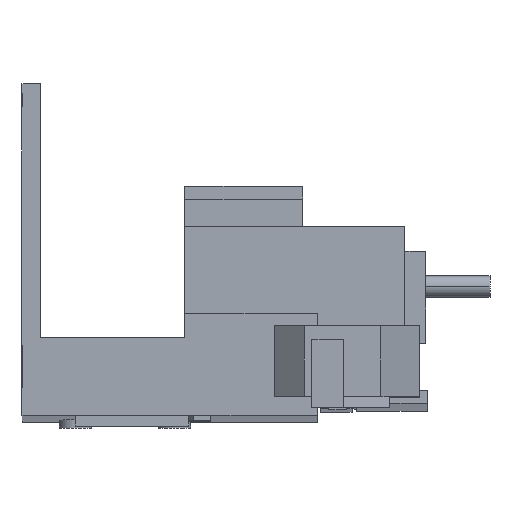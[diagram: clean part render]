
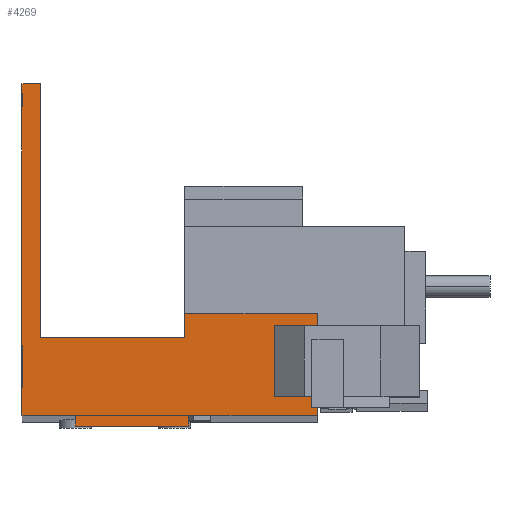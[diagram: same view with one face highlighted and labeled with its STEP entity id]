
A CAD part, front view. The second image highlights one B-rep face of the part: STEP entity #4269.
In plain terms, the highlighted planar face has unit normal (0, -1, 0.002).
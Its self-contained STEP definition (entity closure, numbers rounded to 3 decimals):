
#191 = CARTESIAN_POINT ( 'NONE',  ( 23.5, -33.076, -36.181 ) ) ;
#226 = CARTESIAN_POINT ( 'NONE',  ( 22.92, -33.053, -25.181 ) ) ;
#234 = CARTESIAN_POINT ( 'NONE',  ( 41.6, -33.076, -36.181 ) ) ;
#244 = CARTESIAN_POINT ( 'NONE',  ( 41.6, -33.046, -21.831 ) ) ;
#250 = CARTESIAN_POINT ( 'NONE',  ( 0., -33.076, -36.181 ) ) ;
#259 = CARTESIAN_POINT ( 'NONE',  ( 22.92, -33.046, -21.831 ) ) ;
#301 = CARTESIAN_POINT ( 'NONE',  ( 23.5, -33.079, -37.681 ) ) ;
#319 = CARTESIAN_POINT ( 'NONE',  ( 7.5, -33.076, -36.181 ) ) ;
#735 = CARTESIAN_POINT ( 'NONE',  ( 0., -33.076, -36.181 ) ) ;
#742 = PLANE ( 'NONE',  #6274 ) ;
#744 = DIRECTION ( 'NONE',  ( 0., 1., -0.002 ) ) ;
#745 = DIRECTION ( 'NONE',  ( 1., 0., 0. ) ) ;
#1058 = CARTESIAN_POINT ( 'NONE',  ( 0., -33.076, -36.181 ) ) ;
#1072 = DIRECTION ( 'NONE',  ( -1., 0., 0. ) ) ;
#1493 = DIRECTION ( 'NONE',  ( 0., -0.002, -1. ) ) ;
#1498 = CARTESIAN_POINT ( 'NONE',  ( 41.6, -33.076, -36.181 ) ) ;
#1646 = CARTESIAN_POINT ( 'NONE',  ( 0., -33.076, -36.181 ) ) ;
#1647 = DIRECTION ( 'NONE',  ( -1., 0., 0. ) ) ;
#1726 = CARTESIAN_POINT ( 'NONE',  ( 2.55, -32.978, 10.519 ) ) ;
#1727 = DIRECTION ( 'NONE',  ( 1., 0., 0. ) ) ;
#1882 = CARTESIAN_POINT ( 'NONE',  ( 0., -32.978, 10.519 ) ) ;
#1883 = DIRECTION ( 'NONE',  ( 0., 0.002, 1. ) ) ;
#1888 = CARTESIAN_POINT ( 'NONE',  ( 41.6, -33.046, -21.831 ) ) ;
#1889 = DIRECTION ( 'NONE',  ( 1., 0., 0. ) ) ;
#1900 = CARTESIAN_POINT ( 'NONE',  ( 22.92, -33.046, -21.831 ) ) ;
#1901 = DIRECTION ( 'NONE',  ( 0., 0.002, 1. ) ) ;
#2059 = CARTESIAN_POINT ( 'NONE',  ( 7.5, -33.079, -37.681 ) ) ;
#2060 = CARTESIAN_POINT ( 'NONE',  ( 7.5, -33.079, -37.681 ) ) ;
#2070 = CARTESIAN_POINT ( 'NONE',  ( 2.55, -33.072, -34.53 ) ) ;
#2071 = DIRECTION ( 'NONE',  ( 0., -0.002, -1. ) ) ;
#2072 = CARTESIAN_POINT ( 'NONE',  ( 2., -33.053, -25.181 ) ) ;
#2073 = CARTESIAN_POINT ( 'NONE',  ( 23.5, -33.079, -37.681 ) ) ;
#2074 = DIRECTION ( 'NONE',  ( 1., 0., 0. ) ) ;
#2075 = DIRECTION ( 'NONE',  ( 0., 0.002, 1. ) ) ;
#2077 = DIRECTION ( 'NONE',  ( 1., 0., 0. ) ) ;
#2079 = DIRECTION ( 'NONE',  ( 0., 0.002, 1. ) ) ;
#2404 = VERTEX_POINT ( 'NONE', #6631 ) ;
#2468 = VERTEX_POINT ( 'NONE', #6688 ) ;
#2520 = VERTEX_POINT ( 'NONE', #6592 ) ;
#2524 = VERTEX_POINT ( 'NONE', #6667 ) ;
#2614 = VERTEX_POINT ( 'NONE', #191 ) ;
#2689 = VERTEX_POINT ( 'NONE', #226 ) ;
#2714 = VERTEX_POINT ( 'NONE', #234 ) ;
#2742 = VERTEX_POINT ( 'NONE', #244 ) ;
#2778 = VERTEX_POINT ( 'NONE', #250 ) ;
#2793 = VERTEX_POINT ( 'NONE', #259 ) ;
#2975 = VERTEX_POINT ( 'NONE', #301 ) ;
#3035 = VERTEX_POINT ( 'NONE', #319 ) ;
#3357 = EDGE_LOOP ( 'NONE', ( #3660, #3661, #3662, #3663, #3664, #3665, #3666, #3667, #3668, #3669, #3670, #3671 ) ) ;
#3660 = ORIENTED_EDGE ( 'NONE', *, *, #6010, .F. ) ;
#3661 = ORIENTED_EDGE ( 'NONE', *, *, #6009, .F. ) ;
#3662 = ORIENTED_EDGE ( 'NONE', *, *, #5886, .F. ) ;
#3663 = ORIENTED_EDGE ( 'NONE', *, *, #5939, .F. ) ;
#3664 = ORIENTED_EDGE ( 'NONE', *, *, #5609, .F. ) ;
#3665 = ORIENTED_EDGE ( 'NONE', *, *, #6011, .F. ) ;
#3666 = ORIENTED_EDGE ( 'NONE', *, *, #6012, .T. ) ;
#3667 = ORIENTED_EDGE ( 'NONE', *, *, #6013, .T. ) ;
#3668 = ORIENTED_EDGE ( 'NONE', *, *, #5846, .F. ) ;
#3669 = ORIENTED_EDGE ( 'NONE', *, *, #5786, .F. ) ;
#3670 = ORIENTED_EDGE ( 'NONE', *, *, #5942, .F. ) ;
#3671 = ORIENTED_EDGE ( 'NONE', *, *, #5948, .F. ) ;
#4269 = ADVANCED_FACE ( 'NONE', ( #5171 ), #742, .F. ) ;
#4522 = LINE ( 'NONE', #1646, #4788 ) ;
#4568 = VECTOR ( 'NONE', #1883, 1000. ) ;
#4700 = LINE ( 'NONE', #2070, #5038 ) ;
#4788 = VECTOR ( 'NONE', #1647, 1000. ) ;
#4868 = LINE ( 'NONE', #1888, #4874 ) ;
#4874 = VECTOR ( 'NONE', #1889, 1000. ) ;
#4892 = LINE ( 'NONE', #1900, #4898 ) ;
#4898 = VECTOR ( 'NONE', #1901, 1000. ) ;
#4918 = LINE ( 'NONE', #2060, #5046 ) ;
#4957 = LINE ( 'NONE', #1058, #4979 ) ;
#4979 = VECTOR ( 'NONE', #1072, 1000. ) ;
#4982 = LINE ( 'NONE', #1882, #4568 ) ;
#5036 = LINE ( 'NONE', #2072, #5042 ) ;
#5038 = VECTOR ( 'NONE', #2071, 1000. ) ;
#5040 = LINE ( 'NONE', #2059, #5050 ) ;
#5042 = VECTOR ( 'NONE', #2074, 1000. ) ;
#5044 = LINE ( 'NONE', #2073, #5054 ) ;
#5046 = VECTOR ( 'NONE', #2075, 1000. ) ;
#5050 = VECTOR ( 'NONE', #2077, 1000. ) ;
#5054 = VECTOR ( 'NONE', #2079, 1000. ) ;
#5171 = FACE_OUTER_BOUND ( 'NONE', #3357, .T. ) ;
#5318 = LINE ( 'NONE', #1498, #5334 ) ;
#5334 = VECTOR ( 'NONE', #1493, 1000. ) ;
#5486 = LINE ( 'NONE', #1726, #5492 ) ;
#5492 = VECTOR ( 'NONE', #1727, 1000. ) ;
#5609 = EDGE_CURVE ( 'NONE', #3035, #2778, #4957, .T. ) ;
#5786 = EDGE_CURVE ( 'NONE', #2742, #2714, #5318, .T. ) ;
#5846 = EDGE_CURVE ( 'NONE', #2714, #2614, #4522, .T. ) ;
#5886 = EDGE_CURVE ( 'NONE', #2468, #2520, #5486, .T. ) ;
#5939 = EDGE_CURVE ( 'NONE', #2778, #2468, #4982, .T. ) ;
#5942 = EDGE_CURVE ( 'NONE', #2793, #2742, #4868, .T. ) ;
#5948 = EDGE_CURVE ( 'NONE', #2689, #2793, #4892, .T. ) ;
#6009 = EDGE_CURVE ( 'NONE', #2520, #2404, #4700, .T. ) ;
#6010 = EDGE_CURVE ( 'NONE', #2404, #2689, #5036, .T. ) ;
#6011 = EDGE_CURVE ( 'NONE', #2524, #3035, #4918, .T. ) ;
#6012 = EDGE_CURVE ( 'NONE', #2524, #2975, #5040, .T. ) ;
#6013 = EDGE_CURVE ( 'NONE', #2975, #2614, #5044, .T. ) ;
#6274 = AXIS2_PLACEMENT_3D ( 'NONE', #735, #744, #745 ) ;
#6592 = CARTESIAN_POINT ( 'NONE',  ( 2.55, -32.978, 10.519 ) ) ;
#6631 = CARTESIAN_POINT ( 'NONE',  ( 2.55, -33.053, -25.181 ) ) ;
#6667 = CARTESIAN_POINT ( 'NONE',  ( 7.5, -33.079, -37.681 ) ) ;
#6688 = CARTESIAN_POINT ( 'NONE',  ( 0., -32.978, 10.519 ) ) ;
